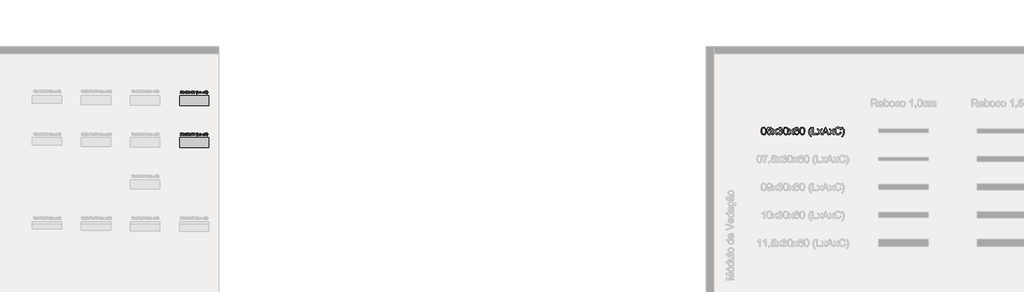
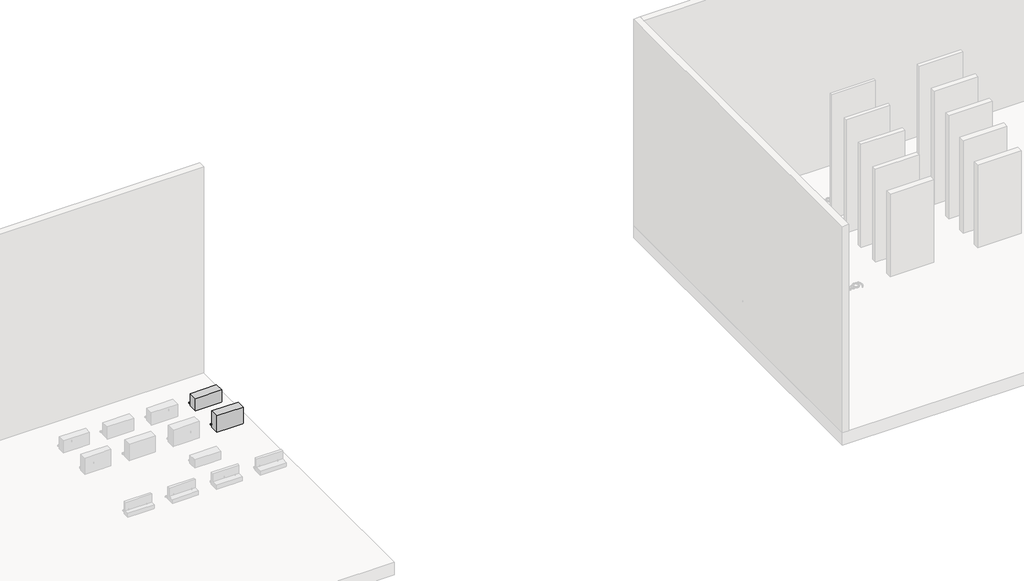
# One storey, part 23 of 26: 5 proxies.
"""IFC4 building model written with IfcOpenShell, lengths in millimetres."""

from ifc_helpers import new_model, si_unit, origin, origin_with_axes, place, context, project, spatial, polyline, outline, extrude, transform, mapped, element, save
from components import generic_models_4d4a063c, generic_models_c7845eef

model = new_model("IFC4")

# Units and contexts
model_context = context("Model", 3, world=origin())
ifc_project = project(units=[si_unit("LENGTHUNIT", "METRE", prefix="MILLI")], contexts=[model_context])

# Site, building, storey
site = spatial("IfcSite", under=ifc_project)
building = spatial("IfcBuilding", under=site)
storey = spatial("IfcBuildingStorey", under=building, Name="Catálogo Celucon", Elevation=0.0)

# Proxies
placement = place(None, origin())
element("IfcBuildingElementProxy", 1, Name="Dimensões", ObjectType="Dimensões", at=placement, inside=storey, context=model_context, shape_type="SweptSolid", body=[
    extrude(outline(polyline([(-3749.3935585, 1406.6025072), (-3749.3935585, 1400.3239878), (-3782.3557852, 1400.3239878), (-3781.6813349, 1404.6527326), (-3777.8676249, 1411.3175281), (-3770.0072129, 1418.5954603), (-3759.1669568, 1429.0555717), (-3756.4568928, 1436.1679569), (-3759.0136726, 1441.9253101), (-3765.6907308, 1444.2736235), (-3772.6498319, 1441.9804924), (-3775.2924509, 1435.6406594), (-3781.5709703, 1436.4254743), (-3776.7578475, 1446.9346366), (-3765.5558408, 1450.5521429), (-3754.3170458, 1446.5299664), (-3750.1783734, 1436.5481016), (-3751.2942821, 1430.5945447), (-3755.0037589, 1424.4386526), (-3763.9984737, 1415.8363453), (-3771.2212235, 1409.7969492), (-3774.0539149, 1406.6025072), (-3749.3935585, 1406.6025072)])), origin_with_axes(), (0.0, 0.0, 1.0), 20.0),
    extrude(outline(polyline([(-3743.1150391, 1425.0333952), (-3741.2694977, 1439.4850262), (-3735.788056, 1447.8175534), (-3726.6339257, 1450.5521429), (-3719.3008113, 1448.9334621), (-3714.2363025, 1444.2674922), (-3711.2932465, 1436.8362759), (-3710.1528123, 1425.0333952), (-3711.9799596, 1410.6430778), (-3717.4430072, 1402.2921565), (-3726.6339257, 1399.5391729), (-3738.1118439, 1404.3216388), (-3741.8642403, 1412.8166472), (-3743.1150391, 1425.0333952)]), holes=[polyline([(-3736.8365197, 1425.0456579), (-3733.8934637, 1409.4535927), (-3726.6339257, 1405.8176923), (-3719.3743877, 1409.4658554), (-3716.4313317, 1425.0456579), (-3719.2762858, 1440.4599135), (-3726.7075021, 1444.2736235), (-3733.7953619, 1440.9136346), (-3736.8365197, 1425.0456579)])]), origin_with_axes(), (0.0, 0.0, 1.0), 20.0),
    extrude(outline(polyline([(-3707.0135526, 1400.3239878), (-3693.5981225, 1418.8652404), (-3706.2287377, 1437.2102892), (-3698.6748941, 1437.2102892), (-3692.5803157, 1428.3811213), (-3689.7353616, 1424.2117921), (-3687.2705522, 1427.6208319), (-3680.3298452, 1437.2102892), (-3672.7760016, 1437.2102892), (-3686.0442789, 1418.8652404), (-3673.2665109, 1400.3239878), (-3680.8203546, 1400.3239878), (-3688.5090883, 1411.4708123), (-3689.9193026, 1413.506426), (-3699.459709, 1400.3239878), (-3707.0135526, 1400.3239878)])), origin_with_axes(), (0.0, 0.0, 1.0), 20.0),
    extrude(outline(polyline([(-3669.3424363, 1413.6658415), (-3663.0639169, 1414.4506564), (-3659.5996948, 1407.8410433), (-3653.1188403, 1405.8176923), (-3645.4914203, 1408.6013327), (-3642.6587289, 1415.4929888), (-3645.4668948, 1421.986106), (-3652.6038055, 1424.5551486), (-3657.0061267, 1423.8684355), (-3656.3071509, 1430.1469549), (-3648.1769589, 1431.8760003), (-3645.0131737, 1437.4187557), (-3647.3063048, 1442.3299803), (-3653.2169422, 1444.2736235), (-3659.201156, 1442.3115862), (-3662.279102, 1436.4254743), (-3668.5576214, 1437.2102892), (-3663.4195362, 1447.057264), (-3653.4376714, 1450.5521429), (-3645.8654337, 1448.8292289), (-3640.5679329, 1444.1203394), (-3638.7346543, 1437.7866377), (-3640.4759624, 1431.9986276), (-3645.6263104, 1427.8415611), (-3638.7837052, 1423.5496045), (-3636.3802095, 1415.3826242), (-3641.1872009, 1404.1499606), (-3653.3395695, 1399.5391729), (-3664.3515039, 1403.4755103), (-3669.3424363, 1413.6658415)])), origin_with_axes(), (0.0, 0.0, 1.0), 20.0),
    extrude(outline(polyline([(-3630.8865051, 1425.0333952), (-3629.0409637, 1439.4850262), (-3623.559522, 1447.8175534), (-3614.4053917, 1450.5521429), (-3607.0722773, 1448.9334621), (-3602.0077685, 1444.2674922), (-3599.0647125, 1436.8362759), (-3597.9242783, 1425.0333952), (-3599.7514256, 1410.6430778), (-3605.2144732, 1402.2921565), (-3614.4053917, 1399.5391729), (-3625.8833099, 1404.3216388), (-3629.6357063, 1412.8166472), (-3630.8865051, 1425.0333952)]), holes=[polyline([(-3624.6079857, 1425.0456579), (-3621.6649297, 1409.4535927), (-3614.4053917, 1405.8176923), (-3607.1458537, 1409.4658554), (-3604.2027977, 1425.0456579), (-3607.0477518, 1440.4599135), (-3614.4789681, 1444.2736235), (-3621.5668279, 1440.9136346), (-3624.6079857, 1425.0456579)])]), origin_with_axes(), (0.0, 0.0, 1.0), 20.0),
    extrude(outline(polyline([(-3594.7850186, 1400.3239878), (-3581.3695885, 1418.8652404), (-3594.0002037, 1437.2102892), (-3586.4463601, 1437.2102892), (-3580.3517817, 1428.3811213), (-3577.5068276, 1424.2117921), (-3575.0420182, 1427.6208319), (-3568.1013112, 1437.2102892), (-3560.5474676, 1437.2102892), (-3573.8157449, 1418.8652404), (-3561.0379769, 1400.3239878), (-3568.5918206, 1400.3239878), (-3576.2805543, 1411.4708123), (-3577.6907686, 1413.506426), (-3587.231175, 1400.3239878), (-3594.7850186, 1400.3239878)])), origin_with_axes(), (0.0, 0.0, 1.0), 20.0),
    extrude(outline(polyline([(-3524.9364905, 1437.2102892), (-3531.2150099, 1436.4254743), (-3533.5939801, 1441.6616614), (-3539.8847622, 1444.2736235), (-3545.5501449, 1442.7530446), (-3549.8359702, 1437.0447423), (-3551.6201979, 1425.8549983), (-3546.0835738, 1430.8643248), (-3539.2225746, 1432.5013997), (-3528.5539968, 1428.0255021), (-3524.1516755, 1416.4617447), (-3526.2240775, 1407.7981237), (-3531.9262484, 1401.6667571), (-3540.1545423, 1399.5391729), (-3552.9507044, 1405.1800302), (-3556.661714, 1412.6480347), (-3557.8987172, 1423.7703337), (-3556.5252911, 1436.2752558), (-3552.4050128, 1444.8254465), (-3546.7794839, 1449.1204688), (-3539.4923547, 1450.5521429), (-3529.5718036, 1447.008213), (-3524.9364905, 1437.2102892)]), holes=[polyline([(-3551.6201979, 1416.5598466), (-3550.167064, 1411.1213244), (-3546.304303, 1407.1727243), (-3540.6450517, 1405.8176923), (-3533.2444922, 1408.6258582), (-3530.4301949, 1416.2532782), (-3533.207704, 1423.5557358), (-3540.9025691, 1426.2228803), (-3548.4993323, 1423.5557358), (-3551.6201979, 1416.5598466)])]), origin_with_axes(), (0.0, 0.0, 1.0), 20.0),
    extrude(outline(polyline([(-3518.6579711, 1425.0333952), (-3516.8124297, 1439.4850262), (-3511.330988, 1447.8175534), (-3502.1768577, 1450.5521429), (-3494.8437433, 1448.9334621), (-3489.7792345, 1444.2674922), (-3486.8361785, 1436.8362759), (-3485.6957443, 1425.0333952), (-3487.5228916, 1410.6430778), (-3492.9859392, 1402.2921565), (-3502.1768577, 1399.5391729), (-3513.654776, 1404.3216388), (-3517.4071723, 1412.8166472), (-3518.6579711, 1425.0333952)]), holes=[polyline([(-3512.3794517, 1425.0456579), (-3509.4363957, 1409.4535927), (-3502.1768577, 1405.8176923), (-3494.9173197, 1409.4658554), (-3491.9742637, 1425.0456579), (-3494.8192178, 1440.4599135), (-3502.2504341, 1444.2736235), (-3509.3382939, 1440.9136346), (-3512.3794517, 1425.0456579)])]), origin_with_axes(), (0.0, 0.0, 1.0), 20.0),
    extrude(outline(polyline([(-3446.4549982, 1386.1973192), (-3455.3700052, 1400.9248618), (-3459.0120369, 1418.4115193), (-3456.2897102, 1433.6786221), (-3446.4549982, 1450.5521429), (-3441.7461086, 1450.5521429), (-3447.6199578, 1440.6070663), (-3451.151625, 1430.968558), (-3452.7335176, 1418.3747311), (-3449.9866653, 1402.2798938), (-3441.7461086, 1386.1973192), (-3446.4549982, 1386.1973192)])), origin_with_axes(), (0.0, 0.0, 1.0), 20.0),
    extrude(outline(polyline([(-3434.6827743, 1400.3239878), (-3434.6827743, 1450.5521429), (-3428.4042549, 1450.5521429), (-3428.4042549, 1406.6025072), (-3403.2901774, 1406.6025072), (-3403.2901774, 1400.3239878), (-3434.6827743, 1400.3239878)])), origin_with_axes(), (0.0, 0.0, 1.0), 20.0),
    extrude(outline(polyline([(-3366.7594953, 1400.3239878), (-3346.7099265, 1450.5521429), (-3341.3633749, 1450.5521429), (-3321.3138061, 1400.3239878), (-3327.9479448, 1400.3239878), (-3333.6991666, 1416.0202863), (-3354.3863975, 1416.0202863), (-3360.1253566, 1400.3239878), (-3366.7594953, 1400.3239878)]), holes=[polyline([(-3352.0810037, 1422.2988057), (-3335.9922977, 1422.2988057), (-3340.5172463, 1434.647378), (-3344.0366507, 1444.2736235), (-3347.1636477, 1435.7264985), (-3352.0810037, 1422.2988057)])]), origin_with_axes(), (0.0, 0.0, 1.0), 20.0),
    extrude(outline(polyline([(-3400.9357326, 1400.3239878), (-3387.5203025, 1418.8652404), (-3400.1509177, 1437.2102892), (-3392.5970741, 1437.2102892), (-3386.5024957, 1428.3811213), (-3383.6575416, 1424.2117921), (-3381.1927322, 1427.6208319), (-3374.2520252, 1437.2102892), (-3366.6981816, 1437.2102892), (-3379.9664589, 1418.8652404), (-3367.1886909, 1400.3239878), (-3374.7425346, 1400.3239878), (-3382.4312683, 1411.4708123), (-3383.8414826, 1413.506426), (-3393.381889, 1400.3239878), (-3400.9357326, 1400.3239878)])), origin_with_axes(), (0.0, 0.0, 1.0), 20.0),
    extrude(outline(polyline([(-3319.3149806, 1400.3239878), (-3305.8995505, 1418.8652404), (-3318.5301657, 1437.2102892), (-3310.9763221, 1437.2102892), (-3304.8817437, 1428.3811213), (-3302.0367896, 1424.2117921), (-3299.5719802, 1427.6208319), (-3292.6312733, 1437.2102892), (-3285.0774296, 1437.2102892), (-3298.3457069, 1418.8652404), (-3285.5679389, 1400.3239878), (-3293.1217826, 1400.3239878), (-3300.8105163, 1411.4708123), (-3302.2207306, 1413.506426), (-3311.761137, 1400.3239878), (-3319.3149806, 1400.3239878)])), origin_with_axes(), (0.0, 0.0, 1.0), 20.0),
    extrude(outline(polyline([(-3243.972748, 1418.1785273), (-3237.6942286, 1416.5598466), (-3245.1377077, 1403.8985745), (-3258.2833576, 1399.5391729), (-3271.3492998, 1402.8378481), (-3279.0135081, 1412.3905173), (-3281.6438643, 1425.8182101), (-3278.6701515, 1439.4666321), (-3270.214997, 1448.3141941), (-3258.1484676, 1451.3369578), (-3245.5730347, 1447.4251459), (-3238.4790436, 1436.4132116), (-3244.7575629, 1434.9171581), (-3249.9079109, 1442.6365486), (-3258.3937222, 1445.0584384), (-3268.2161715, 1442.3728999), (-3273.7650583, 1435.1624128), (-3275.3653449, 1425.8304728), (-3273.4707527, 1415.0147422), (-3267.572378, 1408.104692), (-3258.908757, 1405.8176923), (-3249.3009056, 1408.9324265), (-3243.972748, 1418.1785273)])), origin_with_axes(), (0.0, 0.0, 1.0), 20.0),
    extrude(outline(polyline([(-3228.2764496, 1386.1973192), (-3232.9853391, 1386.1973192), (-3224.7447824, 1402.2798938), (-3221.9979302, 1418.3747311), (-3223.5798228, 1430.8581934), (-3227.0747017, 1440.5089644), (-3232.9853391, 1450.5521429), (-3228.2764496, 1450.5521429), (-3218.4417376, 1433.6786221), (-3215.7194108, 1418.4115193), (-3219.3798366, 1400.9248618), (-3228.2764496, 1386.1973192)])), origin_with_axes(), (0.0, 0.0, 1.0), 20.0),
])
element("IfcBuildingElementProxy", 2, Name="Dimensões", ObjectType="Dimensões", at=placement, inside=storey, context=model_context, shape_type="SweptSolid", body=[
    extrude(outline(polyline([(-3749.3935585, 549.4596501), (-3749.3935585, 543.1811307), (-3782.3557852, 543.1811307), (-3781.6813349, 547.5098755), (-3777.8676249, 554.174671), (-3770.0072129, 561.4526031), (-3759.1669568, 571.9127145), (-3756.4568928, 579.0250998), (-3759.0136726, 584.782453), (-3765.6907308, 587.1307664), (-3772.6498319, 584.8376353), (-3775.2924509, 578.4978022), (-3781.5709703, 579.2826171), (-3776.7578475, 589.7917795), (-3765.5558408, 593.4092858), (-3754.3170458, 589.3871093), (-3750.1783734, 579.4052445), (-3751.2942821, 573.4516875), (-3755.0037589, 567.2957955), (-3763.9984737, 558.6934882), (-3771.2212235, 552.6540921), (-3774.0539149, 549.4596501), (-3749.3935585, 549.4596501)])), origin_with_axes(), (0.0, 0.0, 1.0), 20.0),
    extrude(outline(polyline([(-3743.1150391, 567.890538), (-3741.2694977, 582.3421691), (-3735.788056, 590.6746963), (-3726.6339257, 593.4092858), (-3719.3008113, 591.790605), (-3714.2363025, 587.124635), (-3711.2932465, 579.6934187), (-3710.1528123, 567.890538), (-3711.9799596, 553.5002207), (-3717.4430072, 545.1492994), (-3726.6339257, 542.3963158), (-3738.1118439, 547.1787817), (-3741.8642403, 555.6737901), (-3743.1150391, 567.890538)]), holes=[polyline([(-3736.8365197, 567.9028008), (-3733.8934637, 552.3107355), (-3726.6339257, 548.6748351), (-3719.3743877, 552.3229983), (-3716.4313317, 567.9028008), (-3719.2762858, 583.3170564), (-3726.7075021, 587.1307664), (-3733.7953619, 583.7707775), (-3736.8365197, 567.9028008)])]), origin_with_axes(), (0.0, 0.0, 1.0), 20.0),
    extrude(outline(polyline([(-3707.0135526, 543.1811307), (-3693.5981225, 561.7223832), (-3706.2287377, 580.0674321), (-3698.6748941, 580.0674321), (-3692.5803157, 571.2382642), (-3689.7353616, 567.0689349), (-3687.2705522, 570.4779747), (-3680.3298452, 580.0674321), (-3672.7760016, 580.0674321), (-3686.0442789, 561.7223832), (-3673.2665109, 543.1811307), (-3680.8203546, 543.1811307), (-3688.5090883, 554.3279551), (-3689.9193026, 556.3635688), (-3699.459709, 543.1811307), (-3707.0135526, 543.1811307)])), origin_with_axes(), (0.0, 0.0, 1.0), 20.0),
    extrude(outline(polyline([(-3648.9372483, 543.1811307), (-3648.9372483, 554.9533545), (-3671.6968811, 554.9533545), (-3671.6968811, 561.2318739), (-3647.3676185, 592.6244708), (-3642.6587289, 592.6244708), (-3642.6587289, 561.2318739), (-3636.3802095, 561.2318739), (-3636.3802095, 554.9533545), (-3642.6587289, 554.9533545), (-3642.6587289, 543.1811307), (-3648.9372483, 543.1811307)]), holes=[polyline([(-3648.9372483, 561.2318739), (-3648.9372483, 580.6315178), (-3663.9713592, 561.2318739), (-3648.9372483, 561.2318739)])]), origin_with_axes(), (0.0, 0.0, 1.0), 20.0),
    extrude(outline(polyline([(-3630.8865051, 567.890538), (-3629.0409637, 582.3421691), (-3623.559522, 590.6746963), (-3614.4053917, 593.4092858), (-3607.0722773, 591.790605), (-3602.0077685, 587.124635), (-3599.0647125, 579.6934187), (-3597.9242783, 567.890538), (-3599.7514256, 553.5002207), (-3605.2144732, 545.1492994), (-3614.4053917, 542.3963158), (-3625.8833099, 547.1787817), (-3629.6357063, 555.6737901), (-3630.8865051, 567.890538)]), holes=[polyline([(-3624.6079857, 567.9028008), (-3621.6649297, 552.3107355), (-3614.4053917, 548.6748351), (-3607.1458537, 552.3229983), (-3604.2027977, 567.9028008), (-3607.0477518, 583.3170564), (-3614.4789681, 587.1307664), (-3621.5668279, 583.7707775), (-3624.6079857, 567.9028008)])]), origin_with_axes(), (0.0, 0.0, 1.0), 20.0),
    extrude(outline(polyline([(-3594.7850186, 543.1811307), (-3581.3695885, 561.7223832), (-3594.0002037, 580.0674321), (-3586.4463601, 580.0674321), (-3580.3517817, 571.2382642), (-3577.5068276, 567.0689349), (-3575.0420182, 570.4779747), (-3568.1013112, 580.0674321), (-3560.5474676, 580.0674321), (-3573.8157449, 561.7223832), (-3561.0379769, 543.1811307), (-3568.5918206, 543.1811307), (-3576.2805543, 554.3279551), (-3577.6907686, 556.3635688), (-3587.231175, 543.1811307), (-3594.7850186, 543.1811307)])), origin_with_axes(), (0.0, 0.0, 1.0), 20.0),
    extrude(outline(polyline([(-3524.9364905, 580.0674321), (-3531.2150099, 579.2826171), (-3533.5939801, 584.5188042), (-3539.8847622, 587.1307664), (-3545.5501449, 585.6101875), (-3549.8359702, 579.9018852), (-3551.6201979, 568.7121412), (-3546.0835738, 573.7214677), (-3539.2225746, 575.3585425), (-3528.5539968, 570.8826449), (-3524.1516755, 559.3188875), (-3526.2240775, 550.6552666), (-3531.9262484, 544.5239), (-3540.1545423, 542.3963158), (-3552.9507044, 548.037173), (-3556.661714, 555.5051775), (-3557.8987172, 566.6274765), (-3556.5252911, 579.1323987), (-3552.4050128, 587.6825894), (-3546.7794839, 591.9776117), (-3539.4923547, 593.4092858), (-3529.5718036, 589.8653559), (-3524.9364905, 580.0674321)]), holes=[polyline([(-3551.6201979, 559.4169894), (-3550.167064, 553.9784672), (-3546.304303, 550.0298672), (-3540.6450517, 548.6748351), (-3533.2444922, 551.483001), (-3530.4301949, 559.1104211), (-3533.207704, 566.4128787), (-3540.9025691, 569.0800231), (-3548.4993323, 566.4128787), (-3551.6201979, 559.4169894)])]), origin_with_axes(), (0.0, 0.0, 1.0), 20.0),
    extrude(outline(polyline([(-3518.6579711, 567.890538), (-3516.8124297, 582.3421691), (-3511.330988, 590.6746963), (-3502.1768577, 593.4092858), (-3494.8437433, 591.790605), (-3489.7792345, 587.124635), (-3486.8361785, 579.6934187), (-3485.6957443, 567.890538), (-3487.5228916, 553.5002207), (-3492.9859392, 545.1492994), (-3502.1768577, 542.3963158), (-3513.654776, 547.1787817), (-3517.4071723, 555.6737901), (-3518.6579711, 567.890538)]), holes=[polyline([(-3512.3794517, 567.9028008), (-3509.4363957, 552.3107355), (-3502.1768577, 548.6748351), (-3494.9173197, 552.3229983), (-3491.9742637, 567.9028008), (-3494.8192178, 583.3170564), (-3502.2504341, 587.1307664), (-3509.3382939, 583.7707775), (-3512.3794517, 567.9028008)])]), origin_with_axes(), (0.0, 0.0, 1.0), 20.0),
    extrude(outline(polyline([(-3446.4549982, 529.0544621), (-3455.3700052, 543.7820046), (-3459.0120369, 561.2686621), (-3456.2897102, 576.5357649), (-3446.4549982, 593.4092858), (-3441.7461086, 593.4092858), (-3447.6199578, 583.4642092), (-3451.151625, 573.8257009), (-3452.7335176, 561.2318739), (-3449.9866653, 545.1370366), (-3441.7461086, 529.0544621), (-3446.4549982, 529.0544621)])), origin_with_axes(), (0.0, 0.0, 1.0), 20.0),
    extrude(outline(polyline([(-3434.6827743, 543.1811307), (-3434.6827743, 593.4092858), (-3428.4042549, 593.4092858), (-3428.4042549, 549.4596501), (-3403.2901774, 549.4596501), (-3403.2901774, 543.1811307), (-3434.6827743, 543.1811307)])), origin_with_axes(), (0.0, 0.0, 1.0), 20.0),
    extrude(outline(polyline([(-3366.7594953, 543.1811307), (-3346.7099265, 593.4092858), (-3341.3633749, 593.4092858), (-3321.3138061, 543.1811307), (-3327.9479448, 543.1811307), (-3333.6991666, 558.8774291), (-3354.3863975, 558.8774291), (-3360.1253566, 543.1811307), (-3366.7594953, 543.1811307)]), holes=[polyline([(-3352.0810037, 565.1559485), (-3335.9922977, 565.1559485), (-3340.5172463, 577.5045208), (-3344.0366507, 587.1307664), (-3347.1636477, 578.5836414), (-3352.0810037, 565.1559485)])]), origin_with_axes(), (0.0, 0.0, 1.0), 20.0),
    extrude(outline(polyline([(-3400.9357326, 543.1811307), (-3387.5203025, 561.7223832), (-3400.1509177, 580.0674321), (-3392.5970741, 580.0674321), (-3386.5024957, 571.2382642), (-3383.6575416, 567.0689349), (-3381.1927322, 570.4779747), (-3374.2520252, 580.0674321), (-3366.6981816, 580.0674321), (-3379.9664589, 561.7223832), (-3367.1886909, 543.1811307), (-3374.7425346, 543.1811307), (-3382.4312683, 554.3279551), (-3383.8414826, 556.3635688), (-3393.381889, 543.1811307), (-3400.9357326, 543.1811307)])), origin_with_axes(), (0.0, 0.0, 1.0), 20.0),
    extrude(outline(polyline([(-3319.3149806, 543.1811307), (-3305.8995505, 561.7223832), (-3318.5301657, 580.0674321), (-3310.9763221, 580.0674321), (-3304.8817437, 571.2382642), (-3302.0367896, 567.0689349), (-3299.5719802, 570.4779747), (-3292.6312733, 580.0674321), (-3285.0774296, 580.0674321), (-3298.3457069, 561.7223832), (-3285.5679389, 543.1811307), (-3293.1217826, 543.1811307), (-3300.8105163, 554.3279551), (-3302.2207306, 556.3635688), (-3311.761137, 543.1811307), (-3319.3149806, 543.1811307)])), origin_with_axes(), (0.0, 0.0, 1.0), 20.0),
    extrude(outline(polyline([(-3243.972748, 561.0356702), (-3237.6942286, 559.4169894), (-3245.1377077, 546.7557174), (-3258.2833576, 542.3963158), (-3271.3492998, 545.694991), (-3279.0135081, 555.2476601), (-3281.6438643, 568.675353), (-3278.6701515, 582.323775), (-3270.214997, 591.171337), (-3258.1484676, 594.1941007), (-3245.5730347, 590.2822888), (-3238.4790436, 579.2703544), (-3244.7575629, 577.774301), (-3249.9079109, 585.4936915), (-3258.3937222, 587.9155813), (-3268.2161715, 585.2300427), (-3273.7650583, 578.0195556), (-3275.3653449, 568.6876157), (-3273.4707527, 557.871885), (-3267.572378, 550.9618349), (-3258.908757, 548.6748351), (-3249.3009056, 551.7895694), (-3243.972748, 561.0356702)])), origin_with_axes(), (0.0, 0.0, 1.0), 20.0),
    extrude(outline(polyline([(-3228.2764496, 529.0544621), (-3232.9853391, 529.0544621), (-3224.7447824, 545.1370366), (-3221.9979302, 561.2318739), (-3223.5798228, 573.7153363), (-3227.0747017, 583.3661073), (-3232.9853391, 593.4092858), (-3228.2764496, 593.4092858), (-3218.4417376, 576.5357649), (-3215.7194108, 561.2686621), (-3219.3798366, 543.7820046), (-3228.2764496, 529.0544621)])), origin_with_axes(), (0.0, 0.0, 1.0), 20.0),
])
element("IfcBuildingElementProxy", 3, Name="Legenda Tabela de Módulos", ObjectType="Legenda Tabela de Módulos", at=placement, inside=storey, context=model_context, shape_type="SweptSolid", body=[
    extrude(outline(polyline([(8064.530611, 630.1709819), (8065.914767, 654.2902453), (8070.067235, 673.5258751), (8076.9466283, 688.172177), (8086.5115602, 698.5234567), (8098.8310085, 704.676283), (8113.9739511, 706.7272251), (8135.9732944, 701.8711828), (8151.1668208, 687.8732729), (8159.9959887, 665.579624), (8163.4172913, 630.1709819), (8162.0469309, 606.1896744), (8157.9358496, 587.0000298), (8151.097843, 572.3399323), (8141.5467067, 561.9472659), (8129.1996672, 555.7530528), (8113.9739511, 553.6883152), (8094.402629, 557.2751646), (8079.5401964, 568.035713), (8068.2830073, 593.5207382), (8064.530611, 630.1709819)]), holes=[polyline([(8083.3661691, 630.2077701), (8085.5734611, 600.579474), (8092.195337, 583.4315745), (8102.0545745, 575.2507986), (8113.9739511, 572.5238733), (8125.8933278, 575.2599956), (8135.7525652, 583.4683627), (8142.3744412, 600.6254592), (8144.5817331, 630.2077701), (8142.4480176, 659.1692802), (8136.0468708, 676.4505369), (8126.2060275, 685.0313845), (8113.7532219, 687.891667), (8101.962604, 685.3716753), (8092.4896426, 677.8117003), (8085.6470375, 659.4543888), (8083.3661691, 630.2077701)])]), origin_with_axes(), (0.0, 0.0, 1.0), 20.0),
    extrude(outline(polyline([(8179.8984047, 596.068321), (8198.7339628, 598.4227658), (8202.1920536, 587.1149929), (8208.2253183, 579.0169905), (8216.8061658, 574.1471526), (8227.907005, 572.5238733), (8241.4082743, 574.781749), (8251.5250291, 581.5553763), (8257.8434024, 592.0630058), (8259.9495268, 605.5228883), (8257.9767596, 618.196423), (8252.058458, 627.8901136), (8242.1486368, 634.0429399), (8228.2013106, 636.0938821), (8211.665015, 632.8197323), (8201.0884076, 624.3216582), (8182.2528494, 626.676103), (8198.7339628, 704.3727804), (8271.7217507, 704.3727804), (8271.7217507, 685.5372222), (8213.9642774, 685.5372222), (8205.9076617, 644.0401332), (8219.3629457, 652.2071135), (8233.4620232, 654.9294402), (8251.0605781, 651.5541229), (8265.6700918, 641.428171), (8275.5063367, 625.9955213), (8278.785085, 606.7001107), (8275.832832, 587.8645525), (8266.9760729, 571.7513211), (8250.016713, 558.2040666), (8227.8334286, 553.6883152), (8209.3335628, 556.5899844), (8194.5952904, 565.2949921), (8184.4923311, 578.7916628), (8179.8984047, 596.068321)])), origin_with_axes(), (0.0, 0.0, 1.0), 20.0),
    extrude(outline(polyline([(8288.2028641, 556.0427599), (8328.4491543, 611.6665176), (8290.5573088, 666.7016641), (8313.2188397, 666.7016641), (8331.5025749, 640.2141604), (8340.0374372, 627.7061726), (8347.4318653, 637.933292), (8368.2539862, 666.7016641), (8390.9155171, 666.7016641), (8351.1106852, 611.6665176), (8389.4439891, 556.0427599), (8366.7824582, 556.0427599), (8343.7162571, 589.4832333), (8339.4856142, 595.5900744), (8310.864395, 556.0427599), (8288.2028641, 556.0427599)])), origin_with_axes(), (0.0, 0.0, 1.0), 20.0),
    extrude(outline(polyline([(8401.216213, 596.068321), (8420.0517711, 598.4227658), (8424.2686185, 586.5861626), (8430.4444375, 578.5939262), (8438.8827308, 574.0413865), (8449.8870009, 572.5238733), (8462.799659, 574.6116036), (8472.769261, 580.8747946), (8479.1428166, 590.2189973), (8481.2673351, 601.5497627), (8479.1612107, 612.3057126), (8472.8428374, 621.0291144), (8463.2779056, 626.8094602), (8451.4321053, 628.7362422), (8438.2251417, 626.676103), (8440.3220691, 645.5116611), (8443.3387014, 645.2909319), (8464.7126453, 650.6987973), (8471.8311619, 657.5597965), (8474.2040008, 667.3270635), (8472.4841525, 675.4618541), (8467.3246075, 682.0607374), (8459.4519328, 686.4339346), (8449.5926953, 687.891667), (8439.7150638, 686.420139), (8431.640054, 682.0055551), (8425.744745, 674.6479152), (8422.4062159, 664.3472193), (8403.5706577, 666.7016641), (8409.1164788, 683.6150388), (8418.9849133, 696.2425883), (8432.4861826, 704.1060659), (8448.9305077, 706.7272251), (8471.6472209, 701.5584831), (8487.5397231, 687.4318145), (8493.039559, 668.4307094), (8487.8156346, 651.0666793), (8472.3645908, 638.5954796), (8484.1552088, 633.8314078), (8492.8924062, 625.7196098), (8498.3002715, 614.7015441), (8500.1028933, 601.2186689), (8496.4976497, 582.8613574), (8485.6819191, 567.5206782), (8469.3571555, 557.1464059), (8449.2248133, 553.6883152), (8431.0146546, 556.6405682), (8416.1890102, 565.4973272), (8405.8791173, 579.0445817), (8401.216213, 596.068321)])), origin_with_axes(), (0.0, 0.0, 1.0), 20.0),
    extrude(outline(polyline([(8516.5840067, 630.1709819), (8517.9681627, 654.2902453), (8522.1206307, 673.5258751), (8529.000024, 688.172177), (8538.5649559, 698.5234567), (8550.8844042, 704.676283), (8566.0273468, 706.7272251), (8588.0266901, 701.8711828), (8603.2202165, 687.8732729), (8612.0493844, 665.579624), (8615.470687, 630.1709819), (8614.1003265, 606.1896744), (8609.9892452, 587.0000298), (8603.1512386, 572.3399323), (8593.6001023, 561.9472659), (8581.2530629, 555.7530528), (8566.0273468, 553.6883152), (8546.4560247, 557.2751646), (8531.5935921, 568.035713), (8520.336403, 593.5207382), (8516.5840067, 630.1709819)]), holes=[polyline([(8535.4195648, 630.2077701), (8537.6268568, 600.579474), (8544.2487327, 583.4315745), (8554.1079702, 575.2507986), (8566.0273468, 572.5238733), (8577.9467235, 575.2599956), (8587.8059609, 583.4683627), (8594.4278368, 600.6254592), (8596.6351288, 630.2077701), (8594.5014132, 659.1692802), (8588.1002665, 676.4505369), (8578.2594231, 685.0313845), (8565.8066176, 687.891667), (8554.0159997, 685.3716753), (8544.5430383, 677.8117003), (8537.7004332, 659.4543888), (8535.4195648, 630.2077701)])]), origin_with_axes(), (0.0, 0.0, 1.0), 20.0),
    extrude(outline(polyline([(8624.888466, 556.0427599), (8665.1347563, 611.6665176), (8627.2429108, 666.7016641), (8649.9044417, 666.7016641), (8668.1881769, 640.2141604), (8676.7230392, 627.7061726), (8684.1174673, 637.933292), (8704.9395882, 666.7016641), (8727.6011191, 666.7016641), (8687.7962872, 611.6665176), (8726.1295911, 556.0427599), (8703.4680602, 556.0427599), (8680.4018591, 589.4832333), (8676.1712162, 595.5900744), (8647.5499969, 556.0427599), (8624.888466, 556.0427599)])), origin_with_axes(), (0.0, 0.0, 1.0), 20.0),
    extrude(outline(polyline([(8834.4340505, 666.7016641), (8815.5984923, 664.3472193), (8808.4615816, 680.0557805), (8799.9175223, 685.9326954), (8789.5892353, 687.891667), (8772.5930871, 683.3299303), (8759.7356114, 666.2050234), (8755.8314637, 652.1749238), (8754.3829283, 632.6357913), (8770.9928004, 647.6637708), (8791.5757981, 652.5749955), (8808.9766164, 649.2180722), (8823.5815316, 639.1473026), (8833.4867544, 623.7606382), (8836.7884953, 604.4560305), (8835.2341938, 590.9685568), (8830.5712895, 578.4651675), (8823.1860585, 567.860969), (8813.4647768, 560.0710678), (8801.8489028, 555.2840033), (8788.7798949, 553.6883152), (8767.4105495, 557.9189581), (8750.3914087, 570.6108869), (8739.2583798, 593.0149004), (8735.5473702, 626.3817974), (8739.6676485, 663.8965639), (8752.0284836, 689.547136), (8768.9050701, 702.4322029), (8790.7664577, 706.7272251), (8807.2935563, 704.0692777), (8820.5281111, 696.0954355), (8829.7987374, 683.4310978), (8834.4340505, 666.7016641)]), holes=[polyline([(8754.3829283, 604.7503361), (8758.74233, 588.4347696), (8770.3306128, 576.5889694), (8787.3083669, 572.5238733), (8799.7381798, 574.6299977), (8809.5100453, 580.948371), (8815.8422142, 590.8811849), (8817.9529371, 603.8306311), (8815.8698053, 616.260444), (8809.6204099, 625.7380039), (8799.6829975, 631.739079), (8786.5358147, 633.7394373), (8774.1243959, 631.739079), (8763.7455251, 625.7380039), (8756.7235775, 616.4903703), (8754.3829283, 604.7503361)])]), origin_with_axes(), (0.0, 0.0, 1.0), 20.0),
    extrude(outline(polyline([(8853.2696086, 630.1709819), (8854.6537646, 654.2902453), (8858.8062327, 673.5258751), (8865.685626, 688.172177), (8875.2505579, 698.5234567), (8887.5700062, 704.676283), (8902.7129488, 706.7272251), (8924.7122921, 701.8711828), (8939.9058185, 687.8732729), (8948.7349864, 665.579624), (8952.1562889, 630.1709819), (8950.7859285, 606.1896744), (8946.6748472, 587.0000298), (8939.8368406, 572.3399323), (8930.2857043, 561.9472659), (8917.9386649, 555.7530528), (8902.7129488, 553.6883152), (8883.1416267, 557.2751646), (8868.279194, 568.035713), (8857.022005, 593.5207382), (8853.2696086, 630.1709819)]), holes=[polyline([(8872.1051668, 630.2077701), (8874.3124588, 600.579474), (8880.9343347, 583.4315745), (8890.7935722, 575.2507986), (8902.7129488, 572.5238733), (8914.6323254, 575.2599956), (8924.4915629, 583.4683627), (8931.1134388, 600.6254592), (8933.3207308, 630.2077701), (8931.1870152, 659.1692802), (8924.7858685, 676.4505369), (8914.9450251, 685.0313845), (8902.4922196, 687.891667), (8890.7016017, 685.3716753), (8881.2286403, 677.8117003), (8874.3860352, 659.4543888), (8872.1051668, 630.2077701)])]), origin_with_axes(), (0.0, 0.0, 1.0), 20.0),
    extrude(outline(polyline([(9069.8785274, 513.6627541), (9055.2828092, 534.1445842), (9043.1335064, 557.8453817), (9034.9389349, 583.6155155), (9032.2074111, 610.3053542), (9034.2491562, 633.7118462), (9040.3743914, 656.1066626), (9052.5328913, 681.4721262), (9069.8785274, 706.7272251), (9084.005196, 706.7272251), (9066.3836484, 676.8919953), (9055.788647, 647.9764705), (9051.0429692, 610.1949896), (9053.1031084, 586.0481352), (9059.2835259, 561.9104777), (9069.5842218, 537.7820174), (9084.005196, 513.6627541), (9069.8785274, 513.6627541)])), origin_with_axes(), (0.0, 0.0, 1.0), 20.0),
    extrude(outline(polyline([(9105.1951989, 556.0427599), (9105.1951989, 706.7272251), (9124.0307571, 706.7272251), (9124.0307571, 574.8783181), (9199.3729897, 574.8783181), (9199.3729897, 556.0427599), (9105.1951989, 556.0427599)])), origin_with_axes(), (0.0, 0.0, 1.0), 20.0),
    extrude(outline(polyline([(9308.9650361, 556.0427599), (9369.1137423, 706.7272251), (9385.1533973, 706.7272251), (9445.3021035, 556.0427599), (9425.3996875, 556.0427599), (9408.146022, 603.1316553), (9346.0843294, 603.1316553), (9328.867452, 556.0427599), (9308.9650361, 556.0427599)]), holes=[polyline([(9353.0005109, 621.9672135), (9401.2666287, 621.9672135), (9387.691783, 659.0129304), (9377.1335698, 687.891667), (9367.7525789, 662.2502919), (9353.0005109, 621.9672135)])]), origin_with_axes(), (0.0, 0.0, 1.0), 20.0),
    extrude(outline(polyline([(9206.436324, 556.0427599), (9246.6826143, 611.6665176), (9208.7907688, 666.7016641), (9231.4522997, 666.7016641), (9249.7360348, 640.2141604), (9258.2708971, 627.7061726), (9265.6653252, 637.933292), (9286.4874462, 666.7016641), (9309.1489771, 666.7016641), (9269.3441452, 611.6665176), (9307.6774491, 556.0427599), (9285.0159182, 556.0427599), (9261.9497171, 589.4832333), (9257.7190741, 595.5900744), (9229.0978549, 556.0427599), (9206.436324, 556.0427599)])), origin_with_axes(), (0.0, 0.0, 1.0), 20.0),
    extrude(outline(polyline([(9451.29858, 556.0427599), (9491.5448703, 611.6665176), (9453.6530248, 666.7016641), (9476.3145557, 666.7016641), (9494.5982908, 640.2141604), (9503.1331531, 627.7061726), (9510.5275812, 637.933292), (9531.3497022, 666.7016641), (9554.0112331, 666.7016641), (9514.2064012, 611.6665176), (9552.5397051, 556.0427599), (9529.8781742, 556.0427599), (9506.8119731, 589.4832333), (9502.5813301, 595.5900744), (9473.9601109, 556.0427599), (9451.29858, 556.0427599)])), origin_with_axes(), (0.0, 0.0, 1.0), 20.0),
    extrude(outline(polyline([(9677.3252778, 609.6063784), (9696.160836, 604.7503361), (9687.4696239, 582.8015765), (9673.8303989, 566.7665201), (9655.9145457, 556.9578664), (9634.393449, 553.6883152), (9612.545857, 556.1623216), (9595.1956224, 563.5843408), (9581.8966883, 575.6968555), (9572.2029977, 592.2423482), (9566.2846961, 611.6941087), (9564.3119289, 632.5254267), (9566.5422135, 654.4971789), (9573.2330673, 673.4706928), (9584.0350024, 688.8435617), (9598.5985309, 700.0133787), (9615.8705905, 706.8145971), (9634.7981192, 709.0816699), (9655.4500947, 706.147811), (9672.5244178, 697.3462343), (9685.4876596, 683.2195657), (9693.8063912, 664.3104311), (9674.9708331, 659.8222708), (9668.4409277, 673.5580648), (9659.5197893, 682.9804424), (9648.0970533, 688.4296944), (9634.0623552, 690.2461118), (9617.8847445, 688.2319578), (9604.5950074, 682.1894961), (9594.5104422, 672.7533229), (9587.9483471, 660.5580347), (9583.1474871, 632.5622149), (9584.5684313, 615.1613965), (9588.8312639, 600.1150229), (9596.0969333, 587.9979097), (9606.5263879, 579.3848725), (9619.0297772, 574.2391231), (9632.5172508, 572.5238733), (9648.2396076, 574.859924), (9661.3408051, 581.868076), (9671.2322323, 593.4747529), (9677.3252778, 609.6063784)])), origin_with_axes(), (0.0, 0.0, 1.0), 20.0),
    extrude(outline(polyline([(9724.4141732, 513.6627541), (9710.2875046, 513.6627541), (9724.7084788, 537.7820174), (9735.0091747, 561.9104777), (9741.1895922, 586.0481352), (9743.2497314, 610.1949896), (9738.5040536, 647.6453767), (9728.0194168, 676.5976897), (9710.2875046, 706.7272251), (9724.4141732, 706.7272251), (9741.7598093, 681.4721262), (9753.9183092, 656.1066626), (9760.0435445, 633.7118462), (9762.0852895, 610.3053542), (9759.3399701, 583.6155155), (9751.104012, 557.8453817), (9738.9409135, 534.1445842), (9724.4141732, 513.6627541)])), origin_with_axes(), (0.0, 0.0, 1.0), 20.0),
])
generic_models_shape = generic_models_4d4a063c(model_context)
element("IfcBuildingElementProxy", 4, Name="Módulo de Vedação de Concreto Celular - Celucon : MVCC 20x30x60cm (L x A x C)", ObjectType="Módulo de Vedação de Concreto Celular - Celucon : MVCC 20x30x60cm (L x A x C)", at=placement, inside=storey, context=model_context, shape_type="MappedRepresentation", body=[
    mapped(generic_models_shape, transform((-3497.8603756, 1250.3239878, 0.0), x_axis=(1.0, 0.0, 0.0), y_axis=(0.0, 1.0, 0.0), z_axis=(0.0, 0.0, 1.0))),
])
generic_models_2_shape = generic_models_c7845eef(model_context)
element("IfcBuildingElementProxy", 5, Name="Módulo de Vedação de Concreto Celular - Celucon : MVCC 20x40x60cm (L x A x C)", ObjectType="Módulo de Vedação de Concreto Celular - Celucon : MVCC 20x40x60cm (L x A x C)", at=placement, inside=storey, context=model_context, shape_type="MappedRepresentation", body=[
    mapped(generic_models_2_shape, transform((-3497.8603756, 393.1811307, 0.0), x_axis=(1.0, 0.0, 0.0), y_axis=(0.0, 1.0, 0.0), z_axis=(0.0, 0.0, 1.0))),
])

save(model, "model.ifc")
